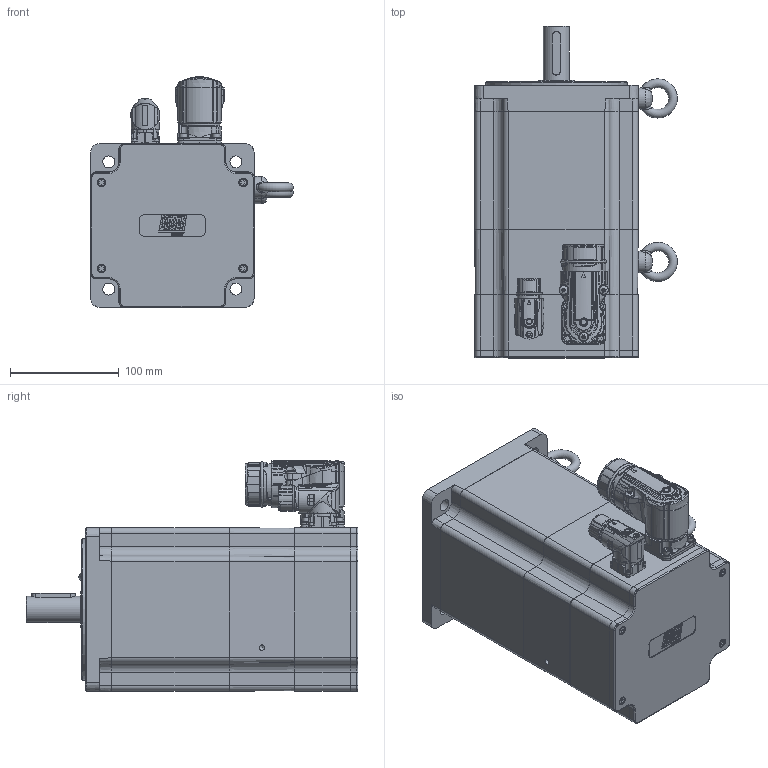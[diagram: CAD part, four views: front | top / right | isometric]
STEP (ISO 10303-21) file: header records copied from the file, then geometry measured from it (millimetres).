
FILE_DESCRIPTION(/* description */ ('Unknown'),/* implementation_level */ '2;1');
FILE_NAME(/* name */ 'TC4-150.6A.xx.x.3.A1.1.x.G3.00.00 Q0B754',/* time_stamp */ '2026-03-06T14:29:03+01:00',/* author */ ('Unknown'),/* organization */ ('Unknown'),/* preprocessor_version */ 'ST-DEVELOPER v19.4',/* originating_system */ 'Solid Edge',/* authorisation */ 'Unknown');
FILE_SCHEMA (('AUTOMOTIVE_DESIGN {1 0 10303 214 3 1 1}'));
Products named in the file (16): Q0B754 6A FRENO M1 VUOTO; 003155002229; 005113000600; 003003200393; 005321000040; 005911000252; 003103040225; 007117000452; Coperchio campana TC4-150; 007117000454; 005911000223; 005119002043; 005911000205; 005911000185; Dispersore TC4 150 6A single cable; 003251040619
Assembly tree (28 placements, depth 2):
  Q0B754 6A FRENO M1 VUOTO
    003155002229
    005113000600
    003003200393
    005321000040  x2
    005911000252  x4
    003103040225
    007117000452
    Coperchio campana TC4-150
    007117000454
    005911000223  x4
    005119002043
    005911000205  x4
    005911000185  x4
    Dispersore TC4 150 6A single cable
    003251040619
Bounding box: 185.95 x 304.5 x 211.46 mm (x, y, z)
Volume: 2200151.3 mm3; surface area: 543384.4 mm2
Topology: 29 solids, 30 shells, 3487 faces, 8612 edges, 5313 vertices
Faces by surface type: plane 1238, bspline 758, cylinder 714, cone 335, torus 318, sphere 124
Full cylindrical faces by diameter (mm): 0.5 x1, 1 x17, 1.2 x17, 2 x4, 2.013 x4, 2.459 x2, 2.5 x4, 3 x5, 3.2 x1, 3.242 x16, 3.6 x5, 4 x11, 4.134 x12, 4.5 x9, 4.7 x4, 4.917 x12, 5 x6, 5.4 x1, 5.5 x9, 5.9 x1, 6 x3, 6.647 x2, 7 x8, 8 x7, 8.4 x1, 8.5 x4, 9 x4, 10 x5, 11 x4, 15.2 x1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
Entity records: 157536 total; most frequent: CARTESIAN_POINT 65592, ORIENTED_EDGE 14954, DIRECTION 12428, EDGE_CURVE 7477, VERTEX_POINT 4906, AXIS2_PLACEMENT_3D 4875, FACE_BOUND 4099, EDGE_LOOP 4073
